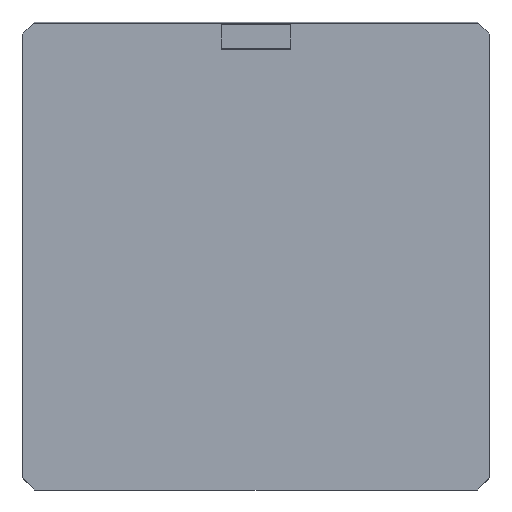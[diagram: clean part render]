
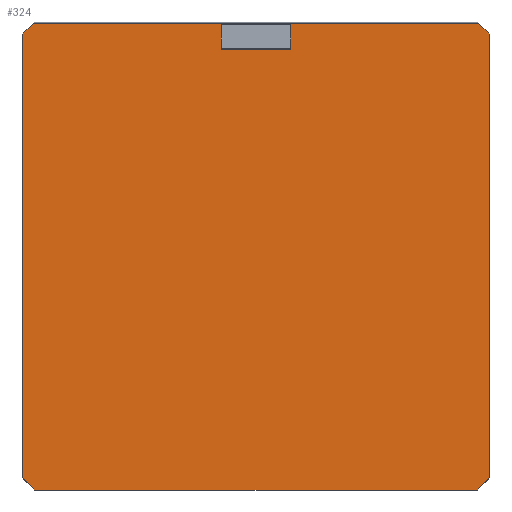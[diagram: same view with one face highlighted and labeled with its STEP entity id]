
A CAD part, top view. The second image highlights one B-rep face of the part: STEP entity #324.
In plain terms, the highlighted planar face has unit normal (0, 0, 1).
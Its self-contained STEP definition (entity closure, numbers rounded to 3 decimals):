
#324 = ADVANCED_FACE( '', ( #693, #694 ), #695, .T. );
#693 = FACE_BOUND( '', #1151, .T. );
#694 = FACE_OUTER_BOUND( '', #1152, .T. );
#695 = PLANE( '', #1153 );
#1151 = EDGE_LOOP( '', ( #2068, #2069, #2070, #2071 ) );
#1152 = EDGE_LOOP( '', ( #2072, #2073, #2074, #2075, #2076, #2077, #2078, #2079 ) );
#1153 = AXIS2_PLACEMENT_3D( '', #2080, #2081, #2082 );
#2068 = ORIENTED_EDGE( '', *, *, #2730, .F. );
#2069 = ORIENTED_EDGE( '', *, *, #2877, .T. );
#2070 = ORIENTED_EDGE( '', *, *, #2786, .T. );
#2071 = ORIENTED_EDGE( '', *, *, #2689, .T. );
#2072 = ORIENTED_EDGE( '', *, *, #2695, .T. );
#2073 = ORIENTED_EDGE( '', *, *, #2936, .T. );
#2074 = ORIENTED_EDGE( '', *, *, #2937, .T. );
#2075 = ORIENTED_EDGE( '', *, *, #2938, .T. );
#2076 = ORIENTED_EDGE( '', *, *, #2939, .T. );
#2077 = ORIENTED_EDGE( '', *, *, #2940, .T. );
#2078 = ORIENTED_EDGE( '', *, *, #2822, .T. );
#2079 = ORIENTED_EDGE( '', *, *, #2803, .T. );
#2080 = CARTESIAN_POINT( '', ( 0., 0., 6.7 ) );
#2081 = DIRECTION( '', ( 0., 0., 1. ) );
#2082 = DIRECTION( '', ( 1., 0., 0. ) );
#2689 = EDGE_CURVE( '', #3262, #3263, #3264, .T. );
#2695 = EDGE_CURVE( '', #3274, #3271, #3275, .T. );
#2730 = EDGE_CURVE( '', #3332, #3263, #3334, .T. );
#2786 = EDGE_CURVE( '', #3418, #3262, #3419, .T. );
#2803 = EDGE_CURVE( '', #3442, #3274, #3443, .T. );
#2822 = EDGE_CURVE( '', #3468, #3442, #3471, .T. );
#2877 = EDGE_CURVE( '', #3332, #3418, #3553, .T. );
#2936 = EDGE_CURVE( '', #3271, #3635, #3636, .T. );
#2937 = EDGE_CURVE( '', #3635, #3637, #3638, .T. );
#2938 = EDGE_CURVE( '', #3637, #3639, #3640, .T. );
#2939 = EDGE_CURVE( '', #3639, #3641, #3642, .T. );
#2940 = EDGE_CURVE( '', #3641, #3468, #3643, .T. );
#3262 = VERTEX_POINT( '', #4082 );
#3263 = VERTEX_POINT( '', #4083 );
#3264 = LINE( '', #4084, #4085 );
#3271 = VERTEX_POINT( '', #4095 );
#3274 = VERTEX_POINT( '', #4099 );
#3275 = LINE( '', #4100, #4101 );
#3332 = VERTEX_POINT( '', #4184 );
#3334 = LINE( '', #4187, #4188 );
#3418 = VERTEX_POINT( '', #4318 );
#3419 = LINE( '', #4319, #4320 );
#3442 = VERTEX_POINT( '', #4355 );
#3443 = LINE( '', #4356, #4357 );
#3468 = VERTEX_POINT( '', #4393 );
#3471 = LINE( '', #4398, #4399 );
#3553 = LINE( '', #4526, #4527 );
#3635 = VERTEX_POINT( '', #4653 );
#3636 = LINE( '', #4654, #4655 );
#3637 = VERTEX_POINT( '', #4656 );
#3638 = LINE( '', #4657, #4658 );
#3639 = VERTEX_POINT( '', #4659 );
#3640 = LINE( '', #4660, #4661 );
#3641 = VERTEX_POINT( '', #4662 );
#3642 = LINE( '', #4663, #4664 );
#3643 = LINE( '', #4665, #4666 );
#4082 = CARTESIAN_POINT( '', ( -18.683, 125.75, 6.7 ) );
#4083 = CARTESIAN_POINT( '', ( 18.683, 125.75, 6.7 ) );
#4084 = CARTESIAN_POINT( '', ( 0., 125.75, 6.7 ) );
#4085 = VECTOR( '', #4972, 1000. );
#4095 = CARTESIAN_POINT( '', ( -119.501, -126.07, 6.7 ) );
#4099 = CARTESIAN_POINT( '', ( -126., -119.571, 6.7 ) );
#4100 = CARTESIAN_POINT( '', ( -126., -119.571, 6.7 ) );
#4101 = VECTOR( '', #4977, 1000. );
#4184 = CARTESIAN_POINT( '', ( 18.683, 111.9, 6.7 ) );
#4187 = CARTESIAN_POINT( '', ( 18.683, 0., 6.7 ) );
#4188 = VECTOR( '', #5005, 1000. );
#4318 = CARTESIAN_POINT( '', ( -18.683, 111.9, 6.7 ) );
#4319 = CARTESIAN_POINT( '', ( -18.683, 0., 6.7 ) );
#4320 = VECTOR( '', #5046, 1000. );
#4355 = CARTESIAN_POINT( '', ( -126., 120.134, 6.7 ) );
#4356 = CARTESIAN_POINT( '', ( -126., 120.134, 6.7 ) );
#4357 = VECTOR( '', #5059, 1000. );
#4393 = CARTESIAN_POINT( '', ( -120.204, 125.93, 6.7 ) );
#4398 = CARTESIAN_POINT( '', ( -119.5, 126.634, 6.7 ) );
#4399 = VECTOR( '', #5071, 1000. );
#4526 = CARTESIAN_POINT( '', ( 0., 111.9, 6.7 ) );
#4527 = VECTOR( '', #5103, 1000. );
#4653 = CARTESIAN_POINT( '', ( 119.501, -126.07, 6.7 ) );
#4654 = CARTESIAN_POINT( '', ( 0., -126.07, 6.7 ) );
#4655 = VECTOR( '', #5137, 1000. );
#4656 = CARTESIAN_POINT( '', ( 126., -119.571, 6.7 ) );
#4657 = CARTESIAN_POINT( '', ( 119.5, -126.071, 6.7 ) );
#4658 = VECTOR( '', #5138, 1000. );
#4659 = CARTESIAN_POINT( '', ( 126., 120.134, 6.7 ) );
#4660 = CARTESIAN_POINT( '', ( 126., -119.571, 6.7 ) );
#4661 = VECTOR( '', #5139, 1000. );
#4662 = CARTESIAN_POINT( '', ( 120.204, 125.93, 6.7 ) );
#4663 = CARTESIAN_POINT( '', ( 126., 120.134, 6.7 ) );
#4664 = VECTOR( '', #5140, 1000. );
#4665 = CARTESIAN_POINT( '', ( 0., 125.93, 6.7 ) );
#4666 = VECTOR( '', #5141, 1000. );
#4972 = DIRECTION( '', ( 1., 0., 0. ) );
#4977 = DIRECTION( '', ( 0.707, -0.707, 0. ) );
#5005 = DIRECTION( '', ( 0., 1., 0. ) );
#5046 = DIRECTION( '', ( 0., 1., 0. ) );
#5059 = DIRECTION( '', ( 0., -1., 0. ) );
#5071 = DIRECTION( '', ( -0.707, -0.707, 0. ) );
#5103 = DIRECTION( '', ( -1., 0., 0. ) );
#5137 = DIRECTION( '', ( 1., 0., 0. ) );
#5138 = DIRECTION( '', ( 0.707, 0.707, 0. ) );
#5139 = DIRECTION( '', ( 0., 1., 0. ) );
#5140 = DIRECTION( '', ( -0.707, 0.707, 0. ) );
#5141 = DIRECTION( '', ( -1., 0., 0. ) );
